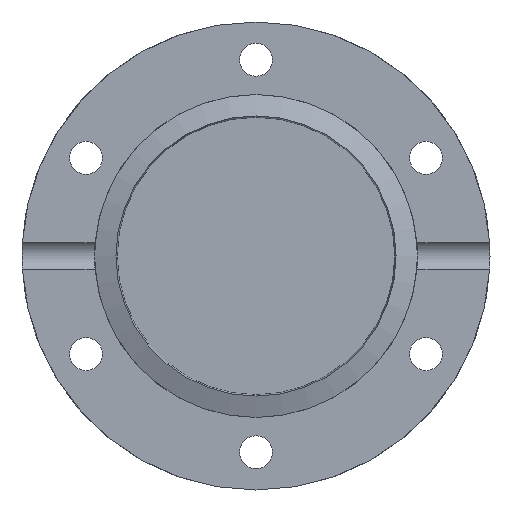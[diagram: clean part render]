
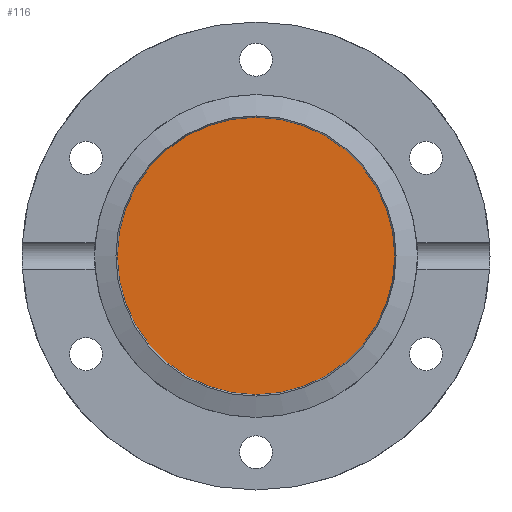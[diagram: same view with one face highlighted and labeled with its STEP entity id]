
A CAD part, left-side view. The second image highlights one B-rep face of the part: STEP entity #116.
In plain terms, the highlighted planar face has unit normal (-1, 0, 0).
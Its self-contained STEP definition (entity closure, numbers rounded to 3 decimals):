
#116 = ADVANCED_FACE( '', ( #230 ), #231, .F. );
#230 = FACE_OUTER_BOUND( '', #354, .T. );
#231 = PLANE( '', #355 );
#354 = EDGE_LOOP( '', ( #505 ) );
#355 = AXIS2_PLACEMENT_3D( '', #506, #507, #508 );
#505 = ORIENTED_EDGE( '', *, *, #605, .T. );
#506 = CARTESIAN_POINT( '', ( 328.7, 0., 20.75 ) );
#507 = DIRECTION( '', ( 1., 0., 0. ) );
#508 = DIRECTION( '', ( 0., 0., -1. ) );
#605 = EDGE_CURVE( '', #675, #675, #676, .T. );
#675 = VERTEX_POINT( '', #809 );
#676 = CIRCLE( '', #810, 20.75 );
#809 = CARTESIAN_POINT( '', ( 328.7, 0., 20.75 ) );
#810 = AXIS2_PLACEMENT_3D( '', #936, #937, #938 );
#936 = CARTESIAN_POINT( '', ( 328.7, 0., 0. ) );
#937 = DIRECTION( '', ( -1., 0., 0. ) );
#938 = DIRECTION( '', ( 0., 0., 1. ) );
